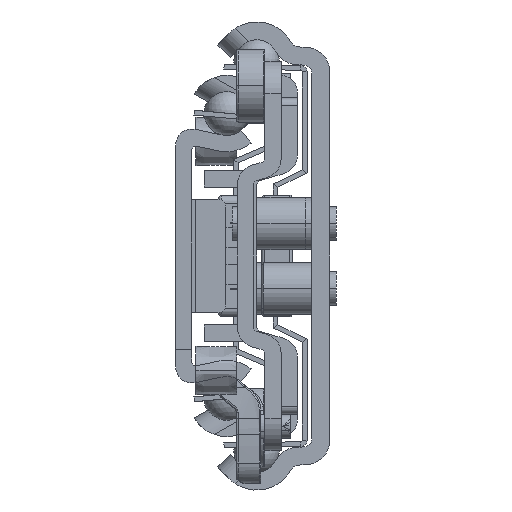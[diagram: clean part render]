
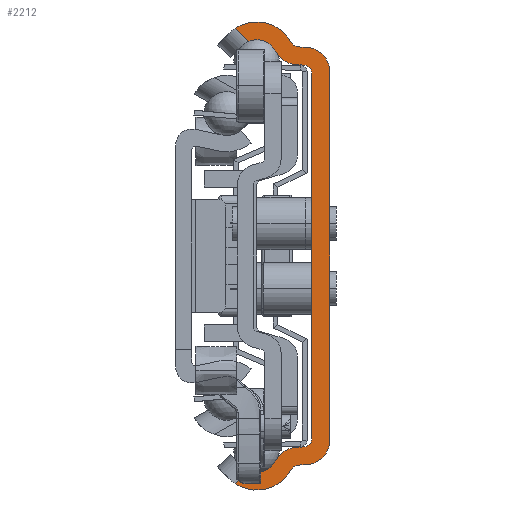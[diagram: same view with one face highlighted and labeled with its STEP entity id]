
A CAD part, left-side view. The second image highlights one B-rep face of the part: STEP entity #2212.
In plain terms, the highlighted planar face has unit normal (-1, 0, 0).
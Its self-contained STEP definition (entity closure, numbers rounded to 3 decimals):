
#1=DIRECTION('',(0.,0.717,-0.697));
#2=VECTOR('',#1,2.305);
#3=CARTESIAN_POINT('',(-150.,9.972,-26.461));
#4=LINE('',#3,#2);
#5=CARTESIAN_POINT('',(-150.,9.,-24.05));
#6=DIRECTION('',(-1.,0.,0.));
#7=DIRECTION('',(0.,0.374,-0.927));
#8=AXIS2_PLACEMENT_3D('',#5,#6,#7);
#10=CARTESIAN_POINT('',(-150.,4.005,-26.582));
#11=DIRECTION('',(-1.,0.,0.));
#12=DIRECTION('',(0.,0.07,0.998));
#13=AXIS2_PLACEMENT_3D('',#10,#11,#12);
#15=DIRECTION('',(0.,-0.998,0.07));
#16=VECTOR('',#15,1.087);
#17=CARTESIAN_POINT('',(-150.,4.214,-23.589));
#18=LINE('',#17,#16);
#19=DIRECTION('',(0.,0.,1.));
#20=VECTOR('',#19,45.032);
#21=CARTESIAN_POINT('',(-150.,2.2,-22.516));
#22=LINE('',#21,#20);
#23=DIRECTION('',(0.,0.998,0.07));
#24=VECTOR('',#23,1.087);
#25=CARTESIAN_POINT('',(-150.,3.13,23.514));
#26=LINE('',#25,#24);
#27=CARTESIAN_POINT('',(-150.,4.005,26.582));
#28=DIRECTION('',(-1.,0.,0.));
#29=DIRECTION('',(0.,0.892,-0.452));
#30=AXIS2_PLACEMENT_3D('',#27,#28,#29);
#32=CARTESIAN_POINT('',(-150.,9.,24.05));
#33=DIRECTION('',(-1.,0.,0.));
#34=DIRECTION('',(0.,-0.892,0.452));
#35=AXIS2_PLACEMENT_3D('',#32,#33,#34);
#37=DIRECTION('',(0.,-0.717,-0.697));
#38=VECTOR('',#37,2.305);
#39=CARTESIAN_POINT('',(-150.,11.624,28.069));
#40=LINE('',#39,#38);
#41=CARTESIAN_POINT('',(-150.,9.,24.05));
#42=DIRECTION('',(1.,0.,0.));
#43=DIRECTION('',(0.,0.547,0.837));
#44=AXIS2_PLACEMENT_3D('',#41,#42,#43);
#46=DIRECTION('',(0.,-0.998,-0.07));
#47=VECTOR('',#46,1.161);
#48=CARTESIAN_POINT('',(-150.,3.949,25.776));
#49=LINE('',#48,#47);
#50=CARTESIAN_POINT('',(-150.,3.,22.702));
#51=DIRECTION('',(-1.,0.,0.));
#52=DIRECTION('',(0.,-1.,0.));
#53=AXIS2_PLACEMENT_3D('',#50,#51,#52);
#55=DIRECTION('',(0.,0.,-1.));
#56=VECTOR('',#55,45.405);
#57=CARTESIAN_POINT('',(-150.,0.,22.702));
#58=LINE('',#57,#56);
#59=CARTESIAN_POINT('',(-150.,3.,-22.702));
#60=DIRECTION('',(-1.,0.,0.));
#61=DIRECTION('',(0.,-0.07,-0.998));
#62=AXIS2_PLACEMENT_3D('',#59,#60,#61);
#64=DIRECTION('',(0.,0.998,-0.07));
#65=VECTOR('',#64,1.161);
#66=CARTESIAN_POINT('',(-150.,2.791,-25.695));
#67=LINE('',#66,#65);
#68=CARTESIAN_POINT('',(-150.,9.,-24.05));
#69=DIRECTION('',(1.,0.,0.));
#70=DIRECTION('',(0.,-0.883,-0.47));
#71=AXIS2_PLACEMENT_3D('',#68,#69,#70);
#79=CARTESIAN_POINT('',(-150.,11.624,-28.069));
#103=CARTESIAN_POINT('',(-150.,9.972,-26.461));
#195=CARTESIAN_POINT('',(-150.,11.624,28.069));
#201=CARTESIAN_POINT('',(-150.,3.879,26.774));
#202=DIRECTION('',(1.,0.,0.));
#203=DIRECTION('',(0.,0.07,-0.998));
#204=AXIS2_PLACEMENT_3D('',#201,#202,#203);
#579=CARTESIAN_POINT('',(-150.,3.879,-26.774));
#580=DIRECTION('',(1.,0.,0.));
#581=DIRECTION('',(0.,0.883,0.47));
#582=AXIS2_PLACEMENT_3D('',#579,#580,#581);
#1026=CARTESIAN_POINT('',(-150.,3.2,-22.516));
#1027=DIRECTION('',(1.,0.,0.));
#1028=DIRECTION('',(0.,-1.,0.));
#1029=AXIS2_PLACEMENT_3D('',#1026,#1027,#1028);
#1044=CARTESIAN_POINT('',(-150.,3.2,22.516));
#1045=DIRECTION('',(1.,0.,0.));
#1046=DIRECTION('',(0.,-0.07,0.998));
#1047=AXIS2_PLACEMENT_3D('',#1044,#1045,#1046);
#1068=CARTESIAN_POINT('',(-150.,9.972,26.461));
#1717=CARTESIAN_POINT('',(-150.,2.2,-22.516));
#1719=VERTEX_POINT('',#1717);
#1721=CARTESIAN_POINT('',(-150.,3.13,-23.514));
#1723=VERTEX_POINT('',#1721);
#1725=CARTESIAN_POINT('',(-150.,3.13,23.514));
#1727=VERTEX_POINT('',#1725);
#1729=CARTESIAN_POINT('',(-150.,2.2,22.516));
#1731=VERTEX_POINT('',#1729);
#1733=CARTESIAN_POINT('',(-150.,3.949,25.776));
#1735=VERTEX_POINT('',#1733);
#1737=CARTESIAN_POINT('',(-150.,4.762,26.304));
#1739=VERTEX_POINT('',#1737);
#1741=CARTESIAN_POINT('',(-150.,4.762,-26.304));
#1743=VERTEX_POINT('',#1741);
#1745=CARTESIAN_POINT('',(-150.,3.949,-25.776));
#1747=VERTEX_POINT('',#1745);
#1749=CARTESIAN_POINT('',(-150.,4.214,-23.589));
#1750=CARTESIAN_POINT('',(-150.,6.681,-25.226));
#1751=VERTEX_POINT('',#1749);
#1752=VERTEX_POINT('',#1750);
#1757=CARTESIAN_POINT('',(-150.,6.681,25.226));
#1758=CARTESIAN_POINT('',(-150.,4.214,23.589));
#1759=VERTEX_POINT('',#1757);
#1760=VERTEX_POINT('',#1758);
#1765=CARTESIAN_POINT('',(-150.,0.,22.702));
#1766=CARTESIAN_POINT('',(-150.,2.791,25.695));
#1767=VERTEX_POINT('',#1765);
#1768=VERTEX_POINT('',#1766);
#1773=CARTESIAN_POINT('',(-150.,2.791,-25.695));
#1774=CARTESIAN_POINT('',(-150.,0.,-22.702));
#1775=VERTEX_POINT('',#1773);
#1776=VERTEX_POINT('',#1774);
#1955=VERTEX_POINT('',#79);
#1963=VERTEX_POINT('',#103);
#1964=VERTEX_POINT('',#1068);
#1972=VERTEX_POINT('',#195);
#2165=CARTESIAN_POINT('',(-150.,0.,0.));
#2166=DIRECTION('',(1.,0.,0.));
#2167=DIRECTION('',(0.,-1.,0.));
#2168=AXIS2_PLACEMENT_3D('',#2165,#2166,#2167);
#2169=PLANE('',#2168);
#2171=ORIENTED_EDGE('',*,*,#2170,.F.);
#2173=ORIENTED_EDGE('',*,*,#2172,.T.);
#2175=ORIENTED_EDGE('',*,*,#2174,.F.);
#2177=ORIENTED_EDGE('',*,*,#2176,.T.);
#2179=ORIENTED_EDGE('',*,*,#2178,.F.);
#2181=ORIENTED_EDGE('',*,*,#2180,.T.);
#2183=ORIENTED_EDGE('',*,*,#2182,.F.);
#2185=ORIENTED_EDGE('',*,*,#2184,.T.);
#2187=ORIENTED_EDGE('',*,*,#2186,.F.);
#2189=ORIENTED_EDGE('',*,*,#2188,.T.);
#2191=ORIENTED_EDGE('',*,*,#2190,.F.);
#2193=ORIENTED_EDGE('',*,*,#2192,.T.);
#2195=ORIENTED_EDGE('',*,*,#2194,.F.);
#2197=ORIENTED_EDGE('',*,*,#2196,.T.);
#2199=ORIENTED_EDGE('',*,*,#2198,.F.);
#2201=ORIENTED_EDGE('',*,*,#2200,.T.);
#2203=ORIENTED_EDGE('',*,*,#2202,.F.);
#2205=ORIENTED_EDGE('',*,*,#2204,.T.);
#2207=ORIENTED_EDGE('',*,*,#2206,.F.);
#2209=ORIENTED_EDGE('',*,*,#2208,.T.);
#2210=EDGE_LOOP('',(#2171,#2173,#2175,#2177,#2179,#2181,#2183,#2185,#2187,#2189,
#2191,#2193,#2195,#2197,#2199,#2201,#2203,#2205,#2207,#2209));
#2211=FACE_OUTER_BOUND('',#2210,.F.);
#2212=ADVANCED_FACE('',(#2211),#2169,.F.);
#9=CIRCLE('',#8,2.6);
#14=CIRCLE('',#13,3.);
#31=CIRCLE('',#30,3.);
#36=CIRCLE('',#35,2.6);
#45=CIRCLE('',#44,4.8);
#54=CIRCLE('',#53,3.);
#63=CIRCLE('',#62,3.);
#72=CIRCLE('',#71,4.8);
#205=CIRCLE('',#204,1.);
#583=CIRCLE('',#582,1.);
#1030=CIRCLE('',#1029,1.);
#1048=CIRCLE('',#1047,1.);
#2170=EDGE_CURVE('',#1963,#1955,#4,.T.);
#2172=EDGE_CURVE('',#1963,#1752,#9,.T.);
#2174=EDGE_CURVE('',#1751,#1752,#14,.T.);
#2176=EDGE_CURVE('',#1751,#1723,#18,.T.);
#2178=EDGE_CURVE('',#1719,#1723,#1030,.T.);
#2180=EDGE_CURVE('',#1719,#1731,#22,.T.);
#2182=EDGE_CURVE('',#1727,#1731,#1048,.T.);
#2184=EDGE_CURVE('',#1727,#1760,#26,.T.);
#2186=EDGE_CURVE('',#1759,#1760,#31,.T.);
#2188=EDGE_CURVE('',#1759,#1964,#36,.T.);
#2190=EDGE_CURVE('',#1972,#1964,#40,.T.);
#2192=EDGE_CURVE('',#1972,#1739,#45,.T.);
#2194=EDGE_CURVE('',#1735,#1739,#205,.T.);
#2196=EDGE_CURVE('',#1735,#1768,#49,.T.);
#2198=EDGE_CURVE('',#1767,#1768,#54,.T.);
#2200=EDGE_CURVE('',#1767,#1776,#58,.T.);
#2202=EDGE_CURVE('',#1775,#1776,#63,.T.);
#2204=EDGE_CURVE('',#1775,#1747,#67,.T.);
#2206=EDGE_CURVE('',#1743,#1747,#583,.T.);
#2208=EDGE_CURVE('',#1743,#1955,#72,.T.);
